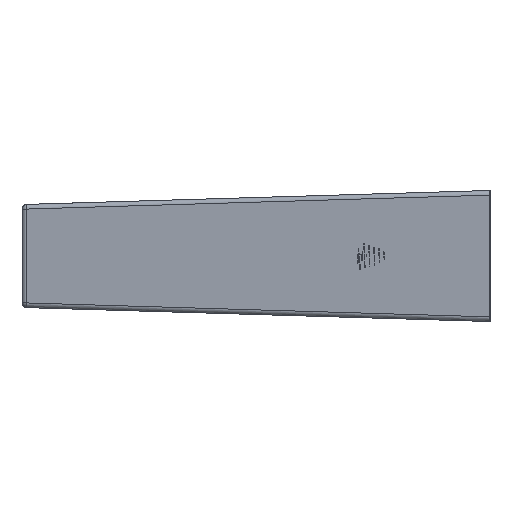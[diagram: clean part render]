
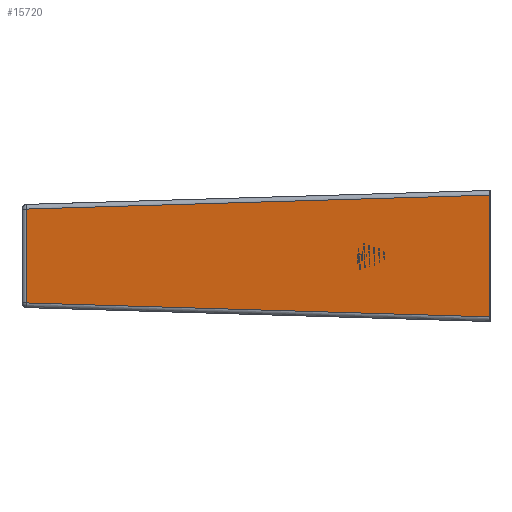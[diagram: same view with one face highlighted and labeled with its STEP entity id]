
A CAD part, left-side view. The second image highlights one B-rep face of the part: STEP entity #15720.
In plain terms, the highlighted planar face has unit normal (-0.992, 0.129, 0).
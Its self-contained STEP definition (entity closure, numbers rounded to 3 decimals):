
#37 = CARTESIAN_POINT ( 'NONE',  ( -66.5, 0., 7. ) ) ;
#242 = LINE ( 'NONE', #37, #1307 ) ;
#453 = VERTEX_POINT ( 'NONE', #2559 ) ;
#509 = DIRECTION ( 'NONE',  ( 0.129, 0.991, -0.03 ) ) ;
#819 = CARTESIAN_POINT ( 'NONE',  ( -66.5, 0., -6.502 ) ) ;
#1307 = VECTOR ( 'NONE', #19116, 1000. ) ;
#1689 = FACE_OUTER_BOUND ( 'NONE', #18905, .T. ) ;
#2002 = DIRECTION ( 'NONE',  ( 0.992, -0.129, 0. ) ) ;
#2559 = CARTESIAN_POINT ( 'NONE',  ( -60.057, 49.564, -5.015 ) ) ;
#2610 = LINE ( 'NONE', #8657, #6970 ) ;
#3329 = AXIS2_PLACEMENT_3D ( 'NONE', #5133, #2002, #14407 ) ;
#3760 = VERTEX_POINT ( 'NONE', #18775 ) ;
#3793 = ORIENTED_EDGE ( 'NONE', *, *, #8822, .T. ) ;
#5133 = CARTESIAN_POINT ( 'NONE',  ( -66.5, 0., 7. ) ) ;
#5524 = LINE ( 'NONE', #8648, #8143 ) ;
#5532 = DIRECTION ( 'NONE',  ( -0.129, -0.991, -0.03 ) ) ;
#6970 = VECTOR ( 'NONE', #5532, 1000. ) ;
#8143 = VECTOR ( 'NONE', #509, 1000. ) ;
#8161 = LINE ( 'NONE', #12665, #13956 ) ;
#8648 = CARTESIAN_POINT ( 'NONE',  ( -66.502, -0.015, 6.502 ) ) ;
#8657 = CARTESIAN_POINT ( 'NONE',  ( -66.448, 0.398, -6.49 ) ) ;
#8822 = EDGE_CURVE ( 'NONE', #19077, #3760, #5524, .T. ) ;
#9455 = ORIENTED_EDGE ( 'NONE', *, *, #13559, .T. ) ;
#12665 = CARTESIAN_POINT ( 'NONE',  ( -60.057, 49.564, 7. ) ) ;
#12948 = PLANE ( 'NONE',  #3329 ) ;
#13559 = EDGE_CURVE ( 'NONE', #453, #20093, #2610, .T. ) ;
#13956 = VECTOR ( 'NONE', #18911, 1000. ) ;
#14407 = DIRECTION ( 'NONE',  ( 0.129, 0.992, 0. ) ) ;
#14680 = EDGE_CURVE ( 'NONE', #3760, #453, #8161, .T. ) ;
#14690 = ORIENTED_EDGE ( 'NONE', *, *, #14680, .T. ) ;
#14948 = EDGE_CURVE ( 'NONE', #19077, #20093, #242, .T. ) ;
#15720 = ADVANCED_FACE ( 'NONE', ( #1689 ), #12948, .F. ) ;
#16507 = CARTESIAN_POINT ( 'NONE',  ( -66.5, 0., 6.502 ) ) ;
#18775 = CARTESIAN_POINT ( 'NONE',  ( -60.057, 49.564, 5.015 ) ) ;
#18905 = EDGE_LOOP ( 'NONE', ( #19328, #3793, #14690, #9455 ) ) ;
#18911 = DIRECTION ( 'NONE',  ( 0., 0., -1. ) ) ;
#19077 = VERTEX_POINT ( 'NONE', #16507 ) ;
#19116 = DIRECTION ( 'NONE',  ( 0., 0., -1. ) ) ;
#19328 = ORIENTED_EDGE ( 'NONE', *, *, #14948, .F. ) ;
#20093 = VERTEX_POINT ( 'NONE', #819 ) ;
